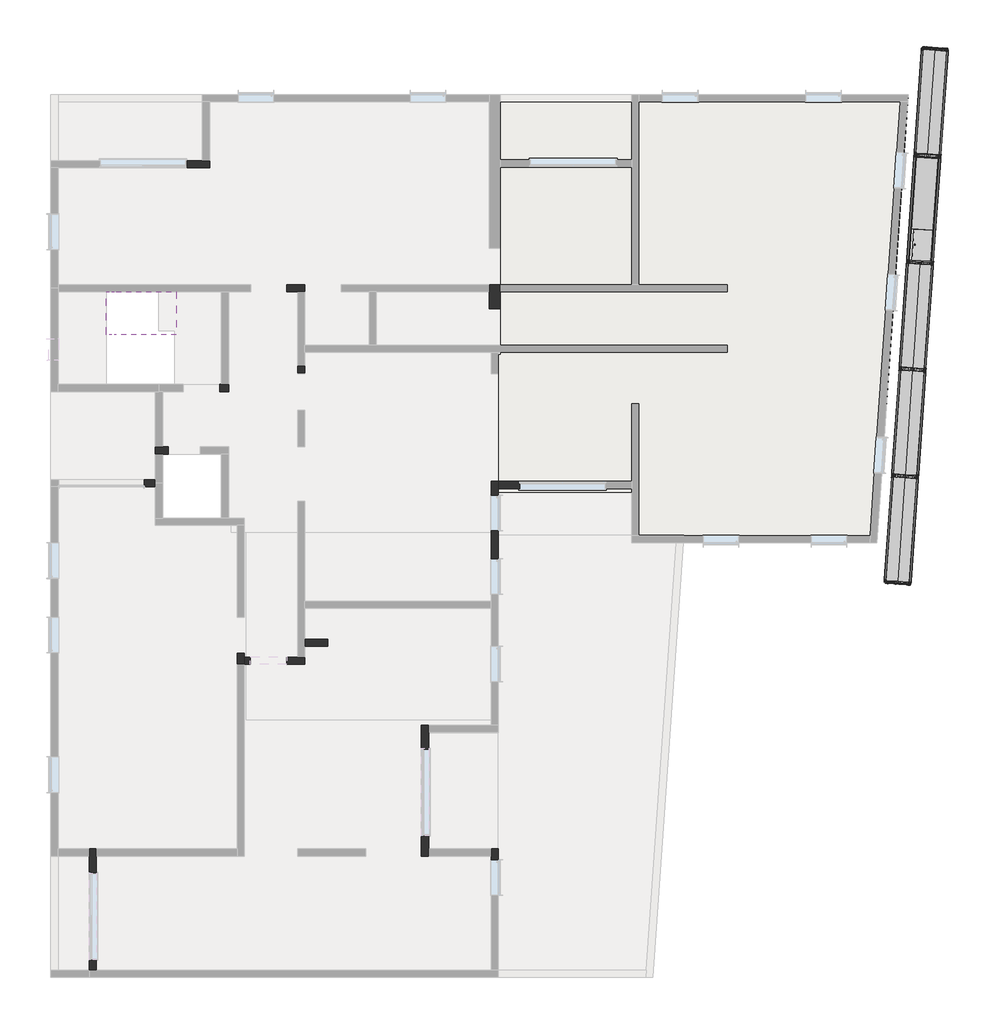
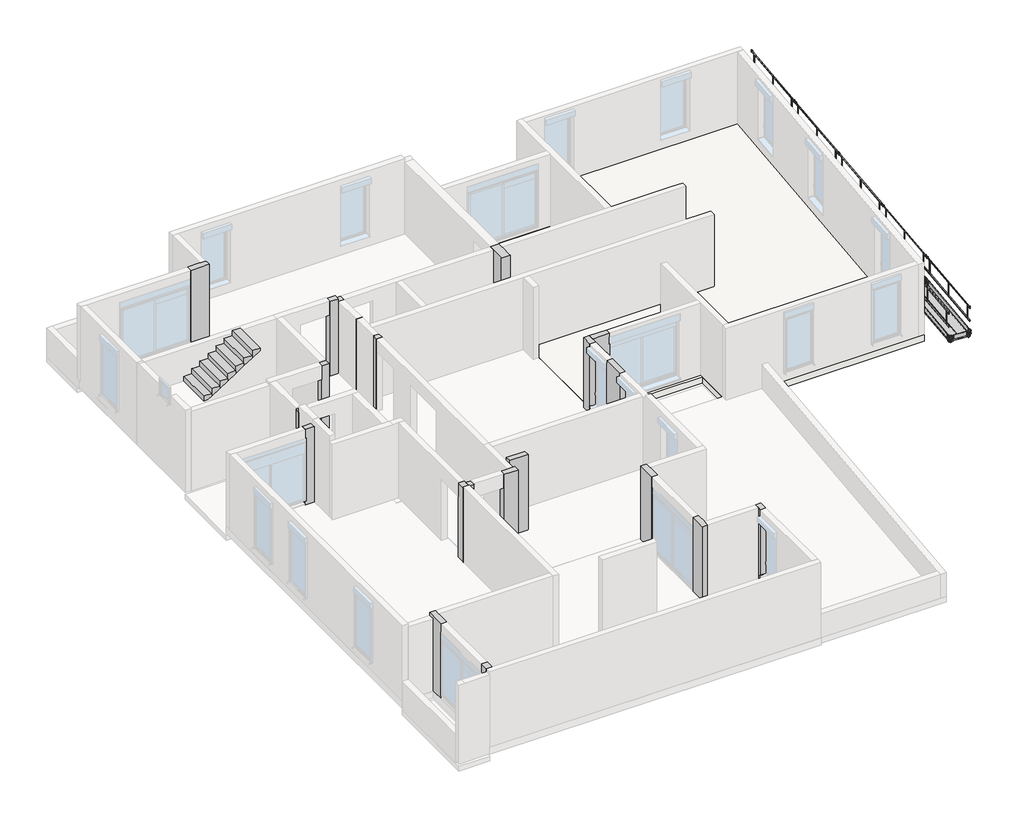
# One storey, part 3 of 3: 57 proxies, 20 columns, 2 slabs, 1 stair flight.
"""IFC4 building model written with IfcOpenShell, lengths in millimetres."""

from ifc_helpers import new_model, si_unit, frame, origin, place, context, project, spatial, polyline, outline, extrude, faceted_brep, transform, mapped, element, save
from components import generic_models_b6224320, generic_models_870fb608, generic_models_6026e95e, generic_models_c9bf4d4e, generic_models_8fe25d63, proxy_03_lisse_70_0da8a22d, proxy_04_lisse_3_m_913477d2

model = new_model("IFC4")

# Units and contexts
model_context = context("Model", 3, world=origin())
ifc_project = project(units=[si_unit("LENGTHUNIT", "METRE", prefix="MILLI")], contexts=[model_context])

# Site, building, storey
site = spatial("IfcSite", under=ifc_project)
building = spatial("IfcBuilding", under=site)
storey = spatial("IfcBuildingStorey", under=building, Name="03-Plateau 3", Elevation=4400.0)

# Proxies
placement = place(None, origin())
generic_models_shape = generic_models_b6224320(model_context)
element("IfcBuildingElementProxy", 1, Name="05-Plateau 3.00 m : JPA Plateau Galva", ObjectType="05-Plateau 3.00 m : JPA Plateau Galva", at=placement, inside=storey, context=model_context, shape_type="MappedRepresentation", body=[
    mapped(generic_models_shape, transform((17696.6144519, 11330.0091436, 4400.0), x_axis=(0.06975647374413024, 0.997564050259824, 0.0), y_axis=(-0.997564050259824, 0.06975647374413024, 0.0), z_axis=(0.0, 0.0, 1.0))),
])
element("IfcBuildingElementProxy", 2, Name="05-Plateau 3.00 m : JPA Plateau Galva", ObjectType="05-Plateau 3.00 m : JPA Plateau Galva", at=placement, inside=storey, context=model_context, shape_type="MappedRepresentation", body=[
    mapped(generic_models_shape, transform((18015.8349479, 11307.687072, 4400.0), x_axis=(0.06975647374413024, 0.997564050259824, 0.0), y_axis=(-0.997564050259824, 0.06975647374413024, 0.0), z_axis=(0.0, 0.0, 1.0))),
])
element("IfcBuildingElementProxy", 3, Name="05-Plateau 3.00 m : JPA Plateau Galva", ObjectType="05-Plateau 3.00 m : JPA Plateau Galva", at=placement, inside=storey, context=model_context, shape_type="MappedRepresentation", body=[
    mapped(generic_models_shape, transform((18115.6220564, 17322.0970558, 4400.0), x_axis=(0.06975647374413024, 0.997564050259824, 0.0), y_axis=(-0.997564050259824, 0.06975647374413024, 0.0), z_axis=(0.0, 0.0, 1.0))),
])
element("IfcBuildingElementProxy", 4, Name="05-Plateau 3.00 m : JPA Plateau Galva", ObjectType="05-Plateau 3.00 m : JPA Plateau Galva", at=placement, inside=storey, context=model_context, shape_type="MappedRepresentation", body=[
    mapped(generic_models_shape, transform((18434.8425525, 17299.7749842, 4400.0), x_axis=(0.06975647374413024, 0.997564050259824, 0.0), y_axis=(-0.997564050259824, 0.06975647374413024, 0.0), z_axis=(0.0, 0.0, 1.0))),
])
element("IfcBuildingElementProxy", 5, Name="05-Plateau 3.00 m : JPA Plateau Galva", ObjectType="05-Plateau 3.00 m : JPA Plateau Galva", at=placement, inside=storey, context=model_context, shape_type="MappedRepresentation", body=[
    mapped(generic_models_shape, transform((17487.1106496, 8333.9651875, 4400.0), x_axis=(0.06975647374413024, 0.997564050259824, 0.0), y_axis=(-0.997564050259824, 0.06975647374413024, 0.0), z_axis=(0.0, 0.0, 1.0))),
])
element("IfcBuildingElementProxy", 6, Name="05-Plateau 3.00 m : JPA Plateau Galva", ObjectType="05-Plateau 3.00 m : JPA Plateau Galva", at=placement, inside=storey, context=model_context, shape_type="MappedRepresentation", body=[
    mapped(generic_models_shape, transform((17806.3311456, 8311.6431159, 4400.0), x_axis=(0.06975647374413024, 0.997564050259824, 0.0), y_axis=(-0.997564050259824, 0.06975647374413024, 0.0), z_axis=(0.0, 0.0, 1.0))),
])
element("IfcBuildingElementProxy", 7, Name="05-Plateau 3.00 m : JPA Plateau Galva", ObjectType="05-Plateau 3.00 m : JPA Plateau Galva", at=placement, inside=storey, context=model_context, shape_type="MappedRepresentation", body=[
    mapped(generic_models_shape, transform((17277.6068473, 5337.9212313, 4400.0), x_axis=(0.06975647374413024, 0.997564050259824, 0.0), y_axis=(-0.997564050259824, 0.06975647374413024, 0.0), z_axis=(0.0, 0.0, 1.0))),
])
element("IfcBuildingElementProxy", 8, Name="05-Plateau 3.00 m : JPA Plateau Galva", ObjectType="05-Plateau 3.00 m : JPA Plateau Galva", at=placement, inside=storey, context=model_context, shape_type="MappedRepresentation", body=[
    mapped(generic_models_shape, transform((17596.8273433, 5315.5991597, 4400.0), x_axis=(0.06975647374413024, 0.997564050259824, 0.0), y_axis=(-0.997564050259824, 0.06975647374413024, 0.0), z_axis=(0.0, 0.0, 1.0))),
])
generic_models_2_shape = generic_models_870fb608(model_context)
element("IfcBuildingElementProxy", 9, Name="07-Plancher trappe : JPA Plancher trappe", ObjectType="07-Plancher trappe : JPA Plancher trappe", at=placement, inside=storey, context=model_context, shape_type="MappedRepresentation", body=[
    mapped(generic_models_2_shape, transform((18603.7155246, 14267.2479276, 4400.0), x_axis=(0.06975647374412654, 0.9975640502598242, 0.0), y_axis=(-0.9975640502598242, 0.06975647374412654, 0.0), z_axis=(0.0, 0.0, 1.0))),
])
generic_models_3_shape = generic_models_6026e95e(model_context)
element("IfcBuildingElementProxy", 10, Name="11-Plinthe 0.70 : JPA Plinthe 0.70", ObjectType="11-Plinthe 0.70 : JPA Plinthe 0.70", at=placement, inside=storey, context=model_context, shape_type="MappedRepresentation", body=[
    mapped(generic_models_3_shape, transform((17293.9283677, 5332.6495195, 4400.0), x_axis=(0.9970739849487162, -0.07644258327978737, 0.0), y_axis=(0.07644258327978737, 0.9970739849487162, 0.0), z_axis=(0.0, 0.0, 1.0))),
])
element("IfcBuildingElementProxy", 11, Name="11-Plinthe 0.70 : JPA Plinthe 0.70", ObjectType="11-Plinthe 0.70 : JPA Plinthe 0.70", at=placement, inside=storey, context=model_context, shape_type="MappedRepresentation", body=[
    mapped(generic_models_3_shape, transform((18342.1895888, 20323.4833915, 4400.0), x_axis=(0.9970739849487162, -0.07644258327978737, 0.0), y_axis=(0.07644258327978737, 0.9970739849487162, 0.0), z_axis=(0.0, 0.0, 1.0))),
])
generic_models_4_shape = generic_models_c9bf4d4e(model_context)
element("IfcBuildingElementProxy", 12, Name="12-Plinthe 3 m : JPA Plinthe 3 m", ObjectType="12-Plinthe 3 m : JPA Plinthe 3 m", at=placement, inside=storey, context=model_context, shape_type="MappedRepresentation", body=[
    mapped(generic_models_4_shape, transform((17696.788843, 11332.5030537, 4400.0), x_axis=(0.06975647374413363, 0.9975640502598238, 0.0), y_axis=(-0.9975640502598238, 0.06975647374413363, 0.0), z_axis=(0.0, 0.0, 1.0))),
])
element("IfcBuildingElementProxy", 13, Name="12-Plinthe 3 m : JPA Plinthe 3 m", ObjectType="12-Plinthe 3 m : JPA Plinthe 3 m", at=placement, inside=storey, context=model_context, shape_type="MappedRepresentation", body=[
    mapped(generic_models_4_shape, transform((18395.0836782, 11283.6735221, 4400.0), x_axis=(0.06975647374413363, 0.9975640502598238, 0.0), y_axis=(-0.9975640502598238, 0.06975647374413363, 0.0), z_axis=(0.0, 0.0, 1.0))),
])
element("IfcBuildingElementProxy", 14, Name="12-Plinthe 3 m : JPA Plinthe 3 m", ObjectType="12-Plinthe 3 m : JPA Plinthe 3 m", at=placement, inside=storey, context=model_context, shape_type="MappedRepresentation", body=[
    mapped(generic_models_4_shape, transform((17906.2926453, 14328.5470098, 4400.0), x_axis=(0.06975647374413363, 0.9975640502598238, 0.0), y_axis=(-0.9975640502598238, 0.06975647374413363, 0.0), z_axis=(0.0, 0.0, 1.0))),
])
element("IfcBuildingElementProxy", 15, Name="12-Plinthe 3 m : JPA Plinthe 3 m", ObjectType="12-Plinthe 3 m : JPA Plinthe 3 m", at=placement, inside=storey, context=model_context, shape_type="MappedRepresentation", body=[
    mapped(generic_models_4_shape, transform((18604.5874805, 14279.7174782, 4400.0), x_axis=(0.06975647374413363, 0.9975640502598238, 0.0), y_axis=(-0.9975640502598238, 0.06975647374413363, 0.0), z_axis=(0.0, 0.0, 1.0))),
])
element("IfcBuildingElementProxy", 16, Name="12-Plinthe 3 m : JPA Plinthe 3 m", ObjectType="12-Plinthe 3 m : JPA Plinthe 3 m", at=placement, inside=storey, context=model_context, shape_type="MappedRepresentation", body=[
    mapped(generic_models_4_shape, transform((18115.7964476, 17324.590966, 4400.0), x_axis=(0.06975647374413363, 0.9975640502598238, 0.0), y_axis=(-0.9975640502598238, 0.06975647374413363, 0.0), z_axis=(0.0, 0.0, 1.0))),
])
element("IfcBuildingElementProxy", 17, Name="12-Plinthe 3 m : JPA Plinthe 3 m", ObjectType="12-Plinthe 3 m : JPA Plinthe 3 m", at=placement, inside=storey, context=model_context, shape_type="MappedRepresentation", body=[
    mapped(generic_models_4_shape, transform((18814.0912828, 17275.7614343, 4400.0), x_axis=(0.06975647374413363, 0.9975640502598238, 0.0), y_axis=(-0.9975640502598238, 0.06975647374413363, 0.0), z_axis=(0.0, 0.0, 1.0))),
])
element("IfcBuildingElementProxy", 18, Name="12-Plinthe 3 m : JPA Plinthe 3 m", ObjectType="12-Plinthe 3 m : JPA Plinthe 3 m", at=placement, inside=storey, context=model_context, shape_type="MappedRepresentation", body=[
    mapped(generic_models_4_shape, transform((17487.2850407, 8336.4590976, 4400.0), x_axis=(0.06975647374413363, 0.9975640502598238, 0.0), y_axis=(-0.9975640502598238, 0.06975647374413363, 0.0), z_axis=(0.0, 0.0, 1.0))),
])
element("IfcBuildingElementProxy", 19, Name="12-Plinthe 3 m : JPA Plinthe 3 m", ObjectType="12-Plinthe 3 m : JPA Plinthe 3 m", at=placement, inside=storey, context=model_context, shape_type="MappedRepresentation", body=[
    mapped(generic_models_4_shape, transform((18185.5798759, 8287.629566, 4400.0), x_axis=(0.06975647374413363, 0.9975640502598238, 0.0), y_axis=(-0.9975640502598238, 0.06975647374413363, 0.0), z_axis=(0.0, 0.0, 1.0))),
])
element("IfcBuildingElementProxy", 20, Name="12-Plinthe 3 m : JPA Plinthe 3 m", ObjectType="12-Plinthe 3 m : JPA Plinthe 3 m", at=placement, inside=storey, context=model_context, shape_type="MappedRepresentation", body=[
    mapped(generic_models_4_shape, transform((17277.7812384, 5340.4151415, 4400.0), x_axis=(0.06975647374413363, 0.9975640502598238, 0.0), y_axis=(-0.9975640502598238, 0.06975647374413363, 0.0), z_axis=(0.0, 0.0, 1.0))),
])
element("IfcBuildingElementProxy", 21, Name="12-Plinthe 3 m : JPA Plinthe 3 m", ObjectType="12-Plinthe 3 m : JPA Plinthe 3 m", at=placement, inside=storey, context=model_context, shape_type="MappedRepresentation", body=[
    mapped(generic_models_4_shape, transform((17976.0760736, 5291.5856098, 4400.0), x_axis=(0.06975647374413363, 0.9975640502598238, 0.0), y_axis=(-0.9975640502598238, 0.06975647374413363, 0.0), z_axis=(0.0, 0.0, 1.0))),
])
generic_models_5_shape = generic_models_8fe25d63(model_context)
element("IfcBuildingElementProxy", 22, Name="14-Garde corps 300 : JPA Garde corps 300", ObjectType="14-Garde corps 300 : JPA Garde corps 300", at=placement, inside=storey, context=model_context, shape_type="MappedRepresentation", body=[
    mapped(generic_models_5_shape, transform((17696.7673576, 11331.7493383, 4400.0), x_axis=(0.06975647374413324, 0.9975640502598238, 0.0), y_axis=(-0.9975640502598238, 0.06975647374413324, 0.0), z_axis=(0.0, 0.0, 1.0))),
])
element("IfcBuildingElementProxy", 23, Name="14-Garde corps 300 : JPA Garde corps 300", ObjectType="14-Garde corps 300 : JPA Garde corps 300", at=placement, inside=storey, context=model_context, shape_type="MappedRepresentation", body=[
    mapped(generic_models_5_shape, transform((17906.2711598, 14327.7932944, 4400.0), x_axis=(0.06975647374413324, 0.9975640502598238, 0.0), y_axis=(-0.9975640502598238, 0.06975647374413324, 0.0), z_axis=(0.0, 0.0, 1.0))),
])
element("IfcBuildingElementProxy", 24, Name="14-Garde corps 300 : JPA Garde corps 300", ObjectType="14-Garde corps 300 : JPA Garde corps 300", at=placement, inside=storey, context=model_context, shape_type="MappedRepresentation", body=[
    mapped(generic_models_5_shape, transform((18115.7749621, 17323.8372506, 4400.0), x_axis=(0.06975647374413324, 0.9975640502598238, 0.0), y_axis=(-0.9975640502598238, 0.06975647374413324, 0.0), z_axis=(0.0, 0.0, 1.0))),
])
element("IfcBuildingElementProxy", 25, Name="14-Garde corps 300 : JPA Garde corps 300", ObjectType="14-Garde corps 300 : JPA Garde corps 300", at=placement, inside=storey, context=model_context, shape_type="MappedRepresentation", body=[
    mapped(generic_models_5_shape, transform((17487.2635553, 8335.7053822, 4400.0), x_axis=(0.06975647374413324, 0.9975640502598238, 0.0), y_axis=(-0.9975640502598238, 0.06975647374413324, 0.0), z_axis=(0.0, 0.0, 1.0))),
])
element("IfcBuildingElementProxy", 26, Name="14-Garde corps 300 : JPA Garde corps 300", ObjectType="14-Garde corps 300 : JPA Garde corps 300", at=placement, inside=storey, context=model_context, shape_type="MappedRepresentation", body=[
    mapped(generic_models_5_shape, transform((18814.2002275, 17273.8372506, 4400.0), x_axis=(0.06975647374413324, 0.9975640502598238, 0.0), y_axis=(-0.9975640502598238, 0.06975647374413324, 0.0), z_axis=(0.0, 0.0, 1.0))),
])
element("IfcBuildingElementProxy", 27, Name="14-Garde corps 300 : JPA Garde corps 300", ObjectType="14-Garde corps 300 : JPA Garde corps 300", at=placement, inside=storey, context=model_context, shape_type="MappedRepresentation", body=[
    mapped(generic_models_5_shape, transform((18604.2002275, 14273.8372506, 4400.0), x_axis=(0.06975647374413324, 0.9975640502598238, 0.0), y_axis=(-0.9975640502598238, 0.06975647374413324, 0.0), z_axis=(0.0, 0.0, 1.0))),
])
element("IfcBuildingElementProxy", 28, Name="14-Garde corps 300 : JPA Garde corps 300", ObjectType="14-Garde corps 300 : JPA Garde corps 300", at=placement, inside=storey, context=model_context, shape_type="MappedRepresentation", body=[
    mapped(generic_models_5_shape, transform((18394.9308063, 11281.1450998, 4400.0), x_axis=(0.06975647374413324, 0.9975640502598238, 0.0), y_axis=(-0.9975640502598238, 0.06975647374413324, 0.0), z_axis=(0.0, 0.0, 1.0))),
])
element("IfcBuildingElementProxy", 29, Name="14-Garde corps 300 : JPA Garde corps 300", ObjectType="14-Garde corps 300 : JPA Garde corps 300", at=placement, inside=storey, context=model_context, shape_type="MappedRepresentation", body=[
    mapped(generic_models_5_shape, transform((18185.427004, 8285.1011437, 4400.0), x_axis=(0.06975647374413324, 0.9975640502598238, 0.0), y_axis=(-0.9975640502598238, 0.06975647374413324, 0.0), z_axis=(0.0, 0.0, 1.0))),
])
element("IfcBuildingElementProxy", 30, Name="14-Garde corps 300 : JPA Garde corps 300", ObjectType="14-Garde corps 300 : JPA Garde corps 300", at=placement, inside=storey, context=model_context, shape_type="MappedRepresentation", body=[
    mapped(generic_models_5_shape, transform((18185.427004, 8285.1011437, 4400.0), x_axis=(0.06975647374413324, 0.9975640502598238, 0.0), y_axis=(-0.9975640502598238, 0.06975647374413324, 0.0), z_axis=(0.0, 0.0, 1.0))),
])
element("IfcBuildingElementProxy", 31, Name="14-Garde corps 300 : JPA Garde corps 300", ObjectType="14-Garde corps 300 : JPA Garde corps 300", at=placement, inside=storey, context=model_context, shape_type="MappedRepresentation", body=[
    mapped(generic_models_5_shape, transform((17277.759753, 5339.6614261, 4400.0), x_axis=(0.06975647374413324, 0.9975640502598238, 0.0), y_axis=(-0.9975640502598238, 0.06975647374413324, 0.0), z_axis=(0.0, 0.0, 1.0))),
])
element("IfcBuildingElementProxy", 32, Name="14-Garde corps 300 : JPA Garde corps 300", ObjectType="14-Garde corps 300 : JPA Garde corps 300", at=placement, inside=storey, context=model_context, shape_type="MappedRepresentation", body=[
    mapped(generic_models_5_shape, transform((17975.9232017, 5289.0571875, 4400.0), x_axis=(0.06975647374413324, 0.9975640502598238, 0.0), y_axis=(-0.9975640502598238, 0.06975647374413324, 0.0), z_axis=(0.0, 0.0, 1.0))),
])
element("IfcBuildingElementProxy", 33, Name="14-Garde corps 300 : JPA Garde corps 300", ObjectType="14-Garde corps 300 : JPA Garde corps 300", at=placement, inside=storey, context=model_context, shape_type="MappedRepresentation", body=[
    mapped(generic_models_5_shape, transform((17975.9232017, 5289.0571875, 4400.0), x_axis=(0.06975647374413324, 0.9975640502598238, 0.0), y_axis=(-0.9975640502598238, 0.06975647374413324, 0.0), z_axis=(0.0, 0.0, 1.0))),
])
proxy_03_lisse_70_shape = proxy_03_lisse_70_0da8a22d(model_context)
element("IfcBuildingElementProxy", 34, Name="03-Lisse 70 : JPA Lisse Galva", ObjectType="03-Lisse 70 : JPA Lisse Galva", at=placement, inside=storey, context=model_context, shape_type="MappedRepresentation", body=[
    mapped(proxy_03_lisse_70_shape, transform((17687.6637048, 11325.7592688, 4400.0), x_axis=(0.9975640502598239, -0.06975647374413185, 0.0), y_axis=(0.06975647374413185, 0.9975640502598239, 0.0), z_axis=(0.0, 0.0, 1.0))),
])
element("IfcBuildingElementProxy", 35, Name="03-Lisse 70 : JPA Lisse Galva", ObjectType="03-Lisse 70 : JPA Lisse Galva", at=placement, inside=storey, context=model_context, shape_type="MappedRepresentation", body=[
    mapped(proxy_03_lisse_70_shape, transform((17897.1675071, 14321.8032249, 4400.0), x_axis=(0.9975640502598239, -0.06975647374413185, 0.0), y_axis=(0.06975647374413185, 0.9975640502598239, 0.0), z_axis=(0.0, 0.0, 1.0))),
])
element("IfcBuildingElementProxy", 36, Name="03-Lisse 70 : JPA Lisse Galva", ObjectType="03-Lisse 70 : JPA Lisse Galva", at=placement, inside=storey, context=model_context, shape_type="MappedRepresentation", body=[
    mapped(proxy_03_lisse_70_shape, transform((18106.6713094, 17317.847181, 4400.0), x_axis=(0.9975640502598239, -0.06975647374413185, 0.0), y_axis=(0.06975647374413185, 0.9975640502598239, 0.0), z_axis=(0.0, 0.0, 1.0))),
])
element("IfcBuildingElementProxy", 37, Name="03-Lisse 70 : JPA Lisse Galva", ObjectType="03-Lisse 70 : JPA Lisse Galva", at=placement, inside=storey, context=model_context, shape_type="MappedRepresentation", body=[
    mapped(proxy_03_lisse_70_shape, transform((18311.1751117, 20323.8911372, 4400.0), x_axis=(0.9975640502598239, -0.06975647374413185, 0.0), y_axis=(0.06975647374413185, 0.9975640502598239, 0.0), z_axis=(0.0, 0.0, 1.0))),
])
element("IfcBuildingElementProxy", 38, Name="03-Lisse 70 : JPA Lisse Galva", ObjectType="03-Lisse 70 : JPA Lisse Galva", at=placement, inside=storey, context=model_context, shape_type="MappedRepresentation", body=[
    mapped(proxy_03_lisse_70_shape, transform((17478.1599025, 8329.7153127, 4400.0), x_axis=(0.9975640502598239, -0.06975647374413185, 0.0), y_axis=(0.06975647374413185, 0.9975640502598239, 0.0), z_axis=(0.0, 0.0, 1.0))),
])
element("IfcBuildingElementProxy", 39, Name="03-Lisse 70 : JPA Lisse Galva", ObjectType="03-Lisse 70 : JPA Lisse Galva", at=placement, inside=storey, context=model_context, shape_type="MappedRepresentation", body=[
    mapped(proxy_03_lisse_70_shape, transform((17478.1599025, 8329.7153127, 4400.0), x_axis=(0.9975640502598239, -0.06975647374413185, 0.0), y_axis=(0.06975647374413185, 0.9975640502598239, 0.0), z_axis=(0.0, 0.0, 1.0))),
])
element("IfcBuildingElementProxy", 40, Name="03-Lisse 70 : JPA Lisse Galva", ObjectType="03-Lisse 70 : JPA Lisse Galva", at=placement, inside=storey, context=model_context, shape_type="MappedRepresentation", body=[
    mapped(proxy_03_lisse_70_shape, transform((17268.6561002, 5333.6713565, 4400.0), x_axis=(0.9975640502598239, -0.06975647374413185, 0.0), y_axis=(0.06975647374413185, 0.9975640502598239, 0.0), z_axis=(0.0, 0.0, 1.0))),
])
proxy_04_lisse_3_m_shape = proxy_04_lisse_3_m_913477d2(model_context)
element("IfcBuildingElementProxy", 41, Name="04-Lisse 3 m : JPA Lisse Galva", ObjectType="04-Lisse 3 m : JPA Lisse Galva", at=placement, inside=storey, context=model_context, shape_type="MappedRepresentation", body=[
    mapped(proxy_04_lisse_3_m_shape, transform((18185.5798759, 8287.629566, 4400.0), x_axis=(0.06975647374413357, 0.9975640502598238, 0.0), y_axis=(-0.9975640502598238, 0.06975647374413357, 0.0), z_axis=(0.0, 0.0, 1.0))),
])
element("IfcBuildingElementProxy", 42, Name="04-Lisse 3 m : JPA Lisse Galva", ObjectType="04-Lisse 3 m : JPA Lisse Galva", at=placement, inside=storey, context=model_context, shape_type="MappedRepresentation", body=[
    mapped(proxy_04_lisse_3_m_shape, transform((18394.2117223, 11271.2039715, 4400.0), x_axis=(0.06975647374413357, 0.9975640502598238, 0.0), y_axis=(-0.9975640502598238, 0.06975647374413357, 0.0), z_axis=(0.0, 0.0, 1.0))),
])
element("IfcBuildingElementProxy", 43, Name="04-Lisse 3 m : JPA Lisse Galva", ObjectType="04-Lisse 3 m : JPA Lisse Galva", at=placement, inside=storey, context=model_context, shape_type="MappedRepresentation", body=[
    mapped(proxy_04_lisse_3_m_shape, transform((18604.1764114, 14273.838916, 4400.0), x_axis=(0.06975647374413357, 0.9975640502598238, 0.0), y_axis=(-0.9975640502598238, 0.06975647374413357, 0.0), z_axis=(0.0, 0.0, 1.0))),
])
element("IfcBuildingElementProxy", 44, Name="04-Lisse 3 m : JPA Lisse Galva", ObjectType="04-Lisse 3 m : JPA Lisse Galva", at=placement, inside=storey, context=model_context, shape_type="MappedRepresentation", body=[
    mapped(proxy_04_lisse_3_m_shape, transform((18813.5502996, 17268.0250134, 4400.0), x_axis=(0.06975647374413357, 0.9975640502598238, 0.0), y_axis=(-0.9975640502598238, 0.06975647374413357, 0.0), z_axis=(0.0, 0.0, 1.0))),
])
element("IfcBuildingElementProxy", 45, Name="04-Lisse 3 m : JPA Lisse Galva", ObjectType="04-Lisse 3 m : JPA Lisse Galva", at=placement, inside=storey, context=model_context, shape_type="MappedRepresentation", body=[
    mapped(proxy_04_lisse_3_m_shape, transform((17976.0760736, 5291.5856098, 4400.0), x_axis=(0.06975647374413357, 0.9975640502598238, 0.0), y_axis=(-0.9975640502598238, 0.06975647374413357, 0.0), z_axis=(0.0, 0.0, 1.0))),
])
element("IfcBuildingElementProxy", 46, Name="04-Lisse 3 m : JPA Lisse Galva", ObjectType="04-Lisse 3 m : JPA Lisse Galva", at=placement, inside=storey, context=model_context, shape_type="MappedRepresentation", body=[
    mapped(proxy_04_lisse_3_m_shape, transform((17487.2850407, 8336.4590976, 4400.0), x_axis=(0.06975647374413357, 0.9975640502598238, 0.0), y_axis=(-0.9975640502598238, 0.06975647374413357, 0.0), z_axis=(0.0, 0.0, 1.0))),
])
element("IfcBuildingElementProxy", 47, Name="04-Lisse 3 m : JPA Lisse Galva", ObjectType="04-Lisse 3 m : JPA Lisse Galva", at=placement, inside=storey, context=model_context, shape_type="MappedRepresentation", body=[
    mapped(proxy_04_lisse_3_m_shape, transform((17695.9168871, 11320.0335031, 4400.0), x_axis=(0.06975647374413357, 0.9975640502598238, 0.0), y_axis=(-0.9975640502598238, 0.06975647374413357, 0.0), z_axis=(0.0, 0.0, 1.0))),
])
element("IfcBuildingElementProxy", 48, Name="04-Lisse 3 m : JPA Lisse Galva", ObjectType="04-Lisse 3 m : JPA Lisse Galva", at=placement, inside=storey, context=model_context, shape_type="MappedRepresentation", body=[
    mapped(proxy_04_lisse_3_m_shape, transform((17905.8815762, 14322.6684476, 4400.0), x_axis=(0.06975647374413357, 0.9975640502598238, 0.0), y_axis=(-0.9975640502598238, 0.06975647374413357, 0.0), z_axis=(0.0, 0.0, 1.0))),
])
element("IfcBuildingElementProxy", 49, Name="04-Lisse 3 m : JPA Lisse Galva", ObjectType="04-Lisse 3 m : JPA Lisse Galva", at=placement, inside=storey, context=model_context, shape_type="MappedRepresentation", body=[
    mapped(proxy_04_lisse_3_m_shape, transform((18115.2554644, 17316.8545451, 4400.0), x_axis=(0.06975647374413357, 0.9975640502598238, 0.0), y_axis=(-0.9975640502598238, 0.06975647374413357, 0.0), z_axis=(0.0, 0.0, 1.0))),
])
element("IfcBuildingElementProxy", 50, Name="04-Lisse 3 m : JPA Lisse Galva", ObjectType="04-Lisse 3 m : JPA Lisse Galva", at=placement, inside=storey, context=model_context, shape_type="MappedRepresentation", body=[
    mapped(proxy_04_lisse_3_m_shape, transform((17277.7812384, 5340.4151415, 4400.0), x_axis=(0.06975647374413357, 0.9975640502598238, 0.0), y_axis=(-0.9975640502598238, 0.06975647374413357, 0.0), z_axis=(0.0, 0.0, 1.0))),
])
element("IfcBuildingElementProxy", 51, Name="04-Lisse 3 m : JPA Lisse Galva", ObjectType="04-Lisse 3 m : JPA Lisse Galva", at=placement, inside=storey, context=model_context, shape_type="MappedRepresentation", body=[
    mapped(proxy_04_lisse_3_m_shape, transform((17500.8765554, 8353.1677495, 4400.0), x_axis=(0.06975647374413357, 0.9975640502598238, 0.0), y_axis=(-0.9975640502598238, 0.06975647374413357, 0.0), z_axis=(0.0, 0.0, 1.0))),
])
element("IfcBuildingElementProxy", 52, Name="04-Lisse 3 m : JPA Lisse Galva", ObjectType="04-Lisse 3 m : JPA Lisse Galva", at=placement, inside=storey, context=model_context, shape_type="MappedRepresentation", body=[
    mapped(proxy_04_lisse_3_m_shape, transform((17709.5084018, 11336.742155, 4400.0), x_axis=(0.06975647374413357, 0.9975640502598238, 0.0), y_axis=(-0.9975640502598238, 0.06975647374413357, 0.0), z_axis=(0.0, 0.0, 1.0))),
])
element("IfcBuildingElementProxy", 53, Name="04-Lisse 3 m : JPA Lisse Galva", ObjectType="04-Lisse 3 m : JPA Lisse Galva", at=placement, inside=storey, context=model_context, shape_type="MappedRepresentation", body=[
    mapped(proxy_04_lisse_3_m_shape, transform((17919.4730909, 14339.3770995, 4400.0), x_axis=(0.06975647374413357, 0.9975640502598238, 0.0), y_axis=(-0.9975640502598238, 0.06975647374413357, 0.0), z_axis=(0.0, 0.0, 1.0))),
])
element("IfcBuildingElementProxy", 54, Name="04-Lisse 3 m : JPA Lisse Galva", ObjectType="04-Lisse 3 m : JPA Lisse Galva", at=placement, inside=storey, context=model_context, shape_type="MappedRepresentation", body=[
    mapped(proxy_04_lisse_3_m_shape, transform((18128.846979, 17333.563197, 4400.0), x_axis=(0.06975647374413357, 0.9975640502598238, 0.0), y_axis=(-0.9975640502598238, 0.06975647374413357, 0.0), z_axis=(0.0, 0.0, 1.0))),
])
element("IfcBuildingElementProxy", 55, Name="04-Lisse 3 m : JPA Lisse Galva", ObjectType="04-Lisse 3 m : JPA Lisse Galva", at=placement, inside=storey, context=model_context, shape_type="MappedRepresentation", body=[
    mapped(proxy_04_lisse_3_m_shape, transform((17291.3727531, 5357.1237934, 4400.0), x_axis=(0.06975647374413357, 0.9975640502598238, 0.0), y_axis=(-0.9975640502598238, 0.06975647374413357, 0.0), z_axis=(0.0, 0.0, 1.0))),
])
element("IfcBuildingElementProxy", 56, Name="04-Lisse 3 m : JPA Lisse Galva", ObjectType="04-Lisse 3 m : JPA Lisse Galva", at=placement, inside=storey, context=model_context, shape_type="MappedRepresentation", body=[
    mapped(proxy_04_lisse_3_m_shape, transform((18604.1764114, 14271.2936372, 3904.432796), x_axis=(0.06975647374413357, 0.9975640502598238, 0.0), y_axis=(-0.9975640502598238, 0.06975647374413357, 0.0), z_axis=(0.0, 0.0, 1.0))),
])
element("IfcBuildingElementProxy", 57, Name="04-Lisse 3 m : JPA Lisse Galva", ObjectType="04-Lisse 3 m : JPA Lisse Galva", at=placement, inside=storey, context=model_context, shape_type="MappedRepresentation", body=[
    mapped(proxy_04_lisse_3_m_shape, transform((17919.4730909, 14336.8318207, 3904.432796), x_axis=(0.06975647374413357, 0.9975640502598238, 0.0), y_axis=(-0.9975640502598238, 0.06975647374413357, 0.0), z_axis=(0.0, 0.0, 1.0))),
])

# Columns
element("IfcColumn", 58, ObjectType="Poteau béton - Carré : 200 x 200 mm", at=placement, inside=storey, context=model_context, shape_type="SweptSolid", body=[
    extrude(outline(polyline([(1012.9552204, 11399.8622276), (1012.9552204, 11199.8622276), (812.9552204, 11199.8622276), (812.9552204, 11399.8622276), (1012.9552204, 11399.8622276)])), frame((0.0, 0.0, 4010.0), z_axis=(0.0, 0.0, 1.0), x_axis=(1.0, 0.0, 0.0)), (0.0, 0.0, 1.0), 2640.0),
])
element("IfcColumn", 59, ObjectType="Poteau béton - Carré : 200 x 200 mm", at=placement, inside=storey, context=model_context, shape_type="SweptSolid", body=[
    extrude(outline(polyline([(1012.9552204, 12599.8622276), (1012.9552204, 12399.8622276), (812.9552204, 12399.8622276), (812.9552204, 12599.8622276), (1012.9552204, 12599.8622276)])), frame((0.0, 0.0, 4010.0), z_axis=(0.0, 0.0, 1.0), x_axis=(1.0, 0.0, 0.0)), (0.0, 0.0, 1.0), 2640.0),
])
element("IfcColumn", 60, ObjectType="Poteau béton - Rectangulaire : 200x175", at=placement, inside=storey, context=model_context, shape_type="Brep", body=[
    faceted_brep([(-512.0447796, 3039.8622276, 4010.0), (-687.0447796, 3039.8622276, 4010.0), (-687.0447796, 3239.8622276, 4010.0), (-512.0447796, 3239.8622276, 4010.0), (-512.0447796, 3039.8622276, 6250.0), (-512.0447796, 3039.8622276, 6740.0), (-687.0447796, 3039.8622276, 6740.0), (-687.0447796, 3239.8622276, 6740.0), (-512.0447796, 3239.8622276, 6740.0), (-512.0447796, 3239.8622276, 6250.0)], [[[0, 1, 2, 3]], [[1, 0, 4, 5, 6]], [[2, 1, 6, 7]], [[3, 2, 7, 8, 9]], [[0, 3, 9, 8, 5, 4]], [[6, 5, 8, 7]]]),
])
element("IfcColumn", 61, ObjectType="Poteau béton - Rectangulaire : 200x250 mm", at=placement, inside=storey, context=model_context, shape_type="Brep", body=[
    faceted_brep([(-1377.0447796, 10879.8622276, 4010.0), (-1327.0447796, 10879.8622276, 4010.0), (-1127.0447796, 10879.8622276, 4010.0), (-1127.0447796, 10679.8622276, 4010.0), (-1377.0447796, 10679.8622276, 4010.0), (-1377.0447796, 10879.8622276, 6250.0), (-1377.0447796, 10879.8622276, 6740.0), (-1327.0447796, 10879.8622276, 6740.0), (-1127.0447796, 10879.8622276, 6740.0), (-1127.0447796, 10679.8622276, 6740.0), (-1377.0447796, 10679.8622276, 6740.0), (-1377.0447796, 10679.8622276, 6250.0)], [[[0, 1, 2, 3, 4]], [[2, 1, 0, 5, 6, 7, 8]], [[3, 2, 8, 9]], [[4, 3, 9, 10, 11]], [[0, 4, 11, 10, 6, 5]], [[8, 7, 6, 10, 9]]]),
])
element("IfcColumn", 62, ObjectType="Poteau béton - Rectangulaire : 200x360 mm", at=placement, inside=storey, context=model_context, shape_type="Brep", body=[
    faceted_brep([(-3177.0447796, 9129.8622276, 4010.0), (-2977.0447796, 9129.8622276, 4010.0), (-2817.0447796, 9129.8622276, 4010.0), (-2817.0447796, 8929.8622276, 4010.0), (-2977.0447796, 8929.8622276, 4010.0), (-3177.0447796, 8929.8622276, 4010.0), (-3177.0447796, 9129.8622276, 6740.0), (-2817.0447796, 9129.8622276, 6740.0), (-2817.0447796, 9129.8622276, 6250.0), (-2817.0447796, 8929.8622276, 6740.0), (-2817.0447796, 8929.8622276, 6250.0), (-3177.0447796, 8929.8622276, 6740.0)], [[[0, 1, 2, 3, 4, 5]], [[2, 1, 0, 6, 7, 8]], [[3, 2, 8, 7, 9, 10]], [[5, 4, 3, 10, 9, 11]], [[0, 5, 11, 6]], [[7, 6, 11, 9]]]),
])
element("IfcColumn", 63, ObjectType="Poteau béton - Rectangulaire : 200x505", at=placement, inside=storey, context=model_context, shape_type="Brep", body=[
    faceted_brep([(1012.9552204, 3039.8622276, 4010.0), (507.9552204, 3039.8622276, 4010.0), (507.9552204, 3239.8622276, 4010.0), (812.9552204, 3239.8622276, 4010.0), (1012.9552204, 3239.8622276, 4010.0), (1012.9552204, 3039.8622276, 6740.0), (507.9552204, 3039.8622276, 6740.0), (507.9552204, 3039.8622276, 6250.0), (507.9552204, 3239.8622276, 6740.0), (507.9552204, 3239.8622276, 6250.0), (1012.9552204, 3239.8622276, 6740.0), (1012.9552204, 3239.8622276, 6650.0)], [[[0, 1, 2, 3, 4]], [[1, 0, 5, 6, 7]], [[2, 1, 7, 6, 8, 9]], [[4, 3, 2, 9, 8, 10, 11]], [[0, 4, 11, 10, 5]], [[6, 5, 10, 8]]]),
])
element("IfcColumn", 64, ObjectType="Poteau béton - Rectangulaire : 200x510 mm", at=placement, inside=storey, context=model_context, shape_type="Brep", body=[
    faceted_brep([(-3487.0447796, 8009.8622276, 4010.0), (-3487.0447796, 8209.8622276, 4010.0), (-3177.0447796, 8209.8622276, 4010.0), (-3177.0447796, 8109.8622276, 4010.0), (-3177.0447796, 8009.8622276, 4010.0), (-3487.0447796, 8209.8622276, 4022.7706813), (-3487.0447796, 8209.8622276, 4050.0), (-3487.0447796, 8209.8622276, 6450.0), (-3487.0447796, 8209.8622276, 6770.0), (-3177.0447796, 8209.8622276, 6770.0), (-3177.0447796, 8209.8622276, 6660.0), (-3177.0447796, 8009.8622276, 6770.0), (-3487.0447796, 8009.8622276, 6770.0), (-3487.0447796, 8009.8622276, 6450.0), (-3487.0447796, 8009.8622276, 4050.0), (-3487.0447796, 8009.8622276, 4022.7706813)], [[[0, 1, 2, 3, 4]], [[2, 1, 5, 6, 7, 8, 9, 10]], [[0, 4, 11, 12, 13, 14, 15]], [[1, 0, 15, 14, 13, 12, 8, 7, 6, 5]], [[4, 3, 2, 10, 9, 11]], [[9, 8, 12, 11]]]),
])
element("IfcColumn", 65, ObjectType="Poteau béton - Rectangulaire : 20x30", at=placement, inside=storey, context=model_context, shape_type="Brep", body=[
    faceted_brep([(-687.0447796, 3339.8622276, 4010.0), (-687.0447796, 3039.8622276, 4010.0), (-887.0447796, 3039.8622276, 4010.0), (-887.0447796, 3339.8622276, 4010.0), (-687.0447796, 3339.8622276, 6250.0), (-687.0447796, 3339.8622276, 6740.0), (-687.0447796, 3039.8622276, 6740.0), (-887.0447796, 3039.8622276, 6740.0), (-887.0447796, 3339.8622276, 6740.0), (-887.0447796, 3339.8622276, 6250.0)], [[[0, 1, 2, 3]], [[1, 0, 4, 5, 6]], [[2, 1, 6, 7]], [[3, 2, 7, 8, 9]], [[0, 3, 9, 8, 5, 4]], [[6, 5, 8, 7]]]),
])
element("IfcColumn", 66, ObjectType="Poteau béton - Rectangulaire : 20x30", at=placement, inside=storey, context=model_context, shape_type="Brep", body=[
    faceted_brep([(-4837.0447796, -5240.1377724, 4010.0), (-4837.0447796, -5540.1377724, 4010.0), (-5037.0447796, -5540.1377724, 4010.0), (-5037.0447796, -5240.1377724, 4010.0), (-4837.0447796, -5240.1377724, 6770.0), (-4837.0447796, -5540.1377724, 6770.0), (-4837.0447796, -5240.1377724, 6400.0), (-5037.0447796, -5540.1377724, 6770.0), (-5037.0447796, -5540.1377724, 6660.0), (-5037.0447796, -5240.1377724, 6770.0), (-5037.0447796, -5240.1377724, 6660.0), (-5037.0447796, -5240.1377724, 6400.0)], [[[0, 1, 2, 3]], [[4, 5, 1, 0, 6]], [[5, 7, 8, 2, 1]], [[7, 9, 10, 11, 3, 2, 8]], [[9, 4, 6, 0, 3, 11, 10]], [[4, 9, 7, 5]]]),
])
element("IfcColumn", 67, ObjectType="Poteau béton - Rectangulaire : 20x30", at=placement, inside=storey, context=model_context, shape_type="Brep", body=[
    faceted_brep([(6432.9552204, -2140.1377724, 4010.0), (6432.9552204, -2150.1377724, 4010.0), (6432.9552204, -2440.1377724, 4010.0), (6232.9552204, -2440.1377724, 4010.0), (6232.9552204, -2340.1377724, 4010.0), (6233.3552204, -2340.1377724, 4010.0), (6233.3552204, -2140.1377724, 4010.0), (6432.9552204, -2140.1377724, 6590.0), (6432.9552204, -2140.1377724, 6770.0), (6432.9552204, -2440.1377724, 6770.0), (6432.9552204, -2440.1377724, 6550.0), (6432.9552204, -2440.1377724, 4350.0), (6232.9552204, -2440.1377724, 6770.0), (6232.9552204, -2440.1377724, 6550.0), (6232.9552204, -2440.1377724, 4350.0), (6232.9552204, -2340.1377724, 6770.0), (6233.3552204, -2140.1377724, 6770.0), (6233.3552204, -2340.1377724, 6770.0)], [[[0, 1, 2, 3, 4, 5, 6]], [[2, 1, 0, 7, 8, 9, 10, 11]], [[3, 2, 11, 10, 9, 12, 13, 14]], [[3, 14, 13, 12, 15, 4]], [[8, 7, 0, 6, 16]], [[9, 8, 16, 17, 15, 12]], [[17, 5, 4, 15]], [[5, 17, 16, 6]]]),
])
element("IfcColumn", 68, ObjectType="Poteau béton - Rectangulaire : 20x38", at=placement, inside=storey, context=model_context, shape_type="Brep", body=[
    faceted_brep([(6432.9552204, 8159.8622276, 4080.0), (6432.9552204, 7779.8622276, 4080.0), (6232.9552204, 7779.8622276, 4080.0), (6232.9552204, 8159.8622276, 4080.0), (6432.9552204, 8159.8622276, 6650.0), (6432.9552204, 7959.8622276, 6650.0), (6432.9552204, 7779.8622276, 6650.0), (6432.9552204, 7779.8622276, 6550.0), (6432.9552204, 7779.8622276, 4350.0), (6432.9552204, 8159.8622276, 6550.0), (6232.9552204, 7779.8622276, 6650.0), (6232.9552204, 7779.8622276, 6550.0), (6232.9552204, 7779.8622276, 4350.0), (6232.9552204, 8159.8622276, 6650.0), (6232.9552204, 8159.8622276, 6550.0)], [[[0, 1, 2, 3]], [[4, 5, 6, 7, 8, 1, 0, 9]], [[6, 10, 11, 12, 2, 1, 8, 7]], [[10, 13, 14, 3, 2, 12, 11]], [[13, 4, 9, 0, 3, 14]], [[4, 13, 10, 6, 5]]]),
])
element("IfcColumn", 69, ObjectType="Poteau béton - Rectangulaire : 20x50 mm", at=placement, inside=storey, context=model_context, shape_type="SweptSolid", body=[
    extrude(outline(polyline([(4010.0, 508.9552204), (4010.0, 1008.9552204), (6650.0, 1008.9552204), (6650.0, 812.9552204), (6740.0, 812.9552204), (6740.0, 508.9552204), (4010.0, 508.9552204)])), frame((0.0, 13479.8622276, 0.0), z_axis=(0.0, 1.0, 0.0), x_axis=(0.0, 0.0, 1.0)), (0.0, 0.0, 1.0), 200.0),
])
element("IfcColumn", 70, ObjectType="Poteau béton - Rectangulaire : 20x57", at=placement, inside=storey, context=model_context, shape_type="Brep", body=[
    faceted_brep([(4478.3552204, -1770.1377724, 4080.0), (4478.3552204, -2340.1377724, 4080.0), (4278.3552204, -2340.1377724, 4080.0), (4278.3552204, -1770.1377724, 4080.0), (4478.3552204, -1770.1377724, 6770.0), (4478.3552204, -2140.1377724, 6770.0), (4478.3552204, -2340.1377724, 6770.0), (4478.3552204, -1770.1377724, 6400.0), (4278.3552204, -2340.1377724, 6770.0), (4278.3552204, -1770.1377724, 6770.0), (4278.3552204, -1770.1377724, 6400.0)], [[[0, 1, 2, 3]], [[4, 5, 6, 1, 0, 7]], [[6, 8, 2, 1]], [[8, 9, 10, 3, 2]], [[9, 4, 7, 0, 3, 10]], [[4, 9, 8, 6, 5]]]),
])
element("IfcColumn", 71, ObjectType="Poteau béton - Rectangulaire : 20x60", at=placement, inside=storey, context=model_context, shape_type="SweptSolid", body=[
    extrude(outline(polyline([(6432.9552204, 8159.8622276), (7032.9552204, 8159.8622276), (7032.9552204, 7959.8622276), (6432.9552204, 7959.8622276), (6432.9552204, 8159.8622276)])), frame((0.0, 0.0, 4080.0), z_axis=(0.0, 0.0, 1.0), x_axis=(1.0, 0.0, 0.0)), (0.0, 0.0, 1.0), 2570.0),
])
element("IfcColumn", 72, ObjectType="Poteau béton - Rectangulaire : 20x64", at=placement, inside=storey, context=model_context, shape_type="Brep", body=[
    faceted_brep([(-1657.0447796, 16949.8622276, 4010.0), (-2297.0447796, 16949.8622276, 4010.0), (-2297.0447796, 17149.8622276, 4010.0), (-1857.0447796, 17149.8622276, 4010.0), (-1657.0447796, 17149.8622276, 4010.0), (-1657.0447796, 16949.8622276, 6770.0), (-2297.0447796, 16949.8622276, 6770.0), (-2297.0447796, 16949.8622276, 6450.0), (-2297.0447796, 16949.8622276, 4120.0), (-2297.0447796, 17149.8622276, 6770.0), (-2297.0447796, 17149.8622276, 6660.0), (-2297.0447796, 17149.8622276, 6450.0), (-2297.0447796, 17149.8622276, 6200.0), (-2297.0447796, 17149.8622276, 4105.0695702), (-2297.0447796, 17149.8622276, 4050.0), (-1857.0447796, 17149.8622276, 6770.0), (-1657.0447796, 17149.8622276, 6770.0), (-1657.0447796, 17049.8622276, 6770.0)], [[[0, 1, 2, 3, 4]], [[5, 6, 7, 8, 1, 0]], [[6, 9, 10, 11, 12, 13, 14, 2, 1, 8, 7]], [[9, 15, 16, 4, 3, 2, 14, 13, 12, 11, 10]], [[16, 17, 5, 0, 4]], [[5, 17, 16, 15, 9, 6]]]),
])
element("IfcColumn", 73, ObjectType="Poteau béton - Rectangulaire : 20x64", at=placement, inside=storey, context=model_context, shape_type="SweptSolid", body=[
    extrude(outline(polyline([(1652.9552204, 3539.8622276), (1012.9552204, 3539.8622276), (1012.9552204, 3739.8622276), (1652.9552204, 3739.8622276), (1652.9552204, 3539.8622276)])), frame((0.0, 0.0, 4010.0), z_axis=(0.0, 0.0, 1.0), x_axis=(1.0, 0.0, 0.0)), (0.0, 0.0, 1.0), 2760.0),
])
element("IfcColumn", 74, ObjectType="Poteau béton - Rectangulaire : 20x68", at=placement, inside=storey, context=model_context, shape_type="Brep", body=[
    faceted_brep([(-4837.0447796, -2140.1377724, 4010.0), (-4837.0447796, -2340.1377724, 4010.0), (-4837.0447796, -2820.1377724, 4010.0), (-5037.0447796, -2820.1377724, 4010.0), (-5037.0447796, -2340.1377724, 4010.0), (-5037.0447796, -2140.1377724, 4010.0), (-4837.0447796, -2140.1377724, 6770.0), (-4837.0447796, -2340.1377724, 6770.0), (-4837.0447796, -2820.1377724, 6770.0), (-5037.0447796, -2820.1377724, 6770.0), (-5037.0447796, -2340.1377724, 6770.0), (-5037.0447796, -2140.1377724, 6770.0), (-5037.0447796, -2140.1377724, 6660.0)], [[[0, 1, 2, 3, 4, 5]], [[6, 7, 8, 2, 1, 0]], [[8, 9, 3, 2]], [[9, 10, 11, 12, 5, 4, 3]], [[11, 6, 0, 5, 12]], [[6, 11, 10, 9, 8, 7]]]),
])
element("IfcColumn", 75, ObjectType="Poteau béton - Rectangulaire : 20x68", at=placement, inside=storey, context=model_context, shape_type="Brep", body=[
    faceted_brep([(4478.3552204, 1329.8622276, 4080.0), (4478.3552204, 649.8622276, 4080.0), (4278.3552204, 649.8622276, 4080.0), (4278.3552204, 1329.8622276, 4080.0), (4478.3552204, 1329.8622276, 6770.0), (4478.3552204, 1129.8622276, 6770.0), (4478.3552204, 677.5337635, 6770.0), (4478.3552204, 677.5337635, 6400.0), (4478.3552204, 649.8622276, 6400.0), (4278.3552204, 649.8622276, 6400.0), (4278.3552204, 677.5337635, 6400.0), (4278.3552204, 677.5337635, 6770.0), (4278.3552204, 1329.8622276, 6770.0)], [[[0, 1, 2, 3]], [[1, 0, 4, 5, 6, 7, 8]], [[2, 1, 8, 9]], [[3, 2, 9, 10, 11, 12]], [[0, 3, 12, 4]], [[4, 12, 11, 6, 5]], [[10, 7, 6, 11]], [[7, 10, 9, 8]]]),
])
element("IfcColumn", 76, ObjectType="Poteau béton - Rectangulaire : 20x78", at=placement, inside=storey, context=model_context, shape_type="Brep", body=[
    faceted_brep([(6432.9552204, 6779.8622276, 4080.0), (6432.9552204, 5999.8622276, 4080.0), (6232.9552204, 5999.8622276, 4080.0), (6232.9552204, 6779.8622276, 4080.0), (6432.9552204, 6779.8622276, 6650.0), (6432.9552204, 5999.8622276, 6650.0), (6432.9552204, 5999.8622276, 6550.0), (6432.9552204, 5999.8622276, 4350.0), (6432.9552204, 6779.8622276, 4350.0), (6432.9552204, 6779.8622276, 6550.0), (6232.9552204, 5999.8622276, 6650.0), (6232.9552204, 5999.8622276, 6550.0), (6232.9552204, 5999.8622276, 4350.0), (6232.9552204, 6779.8622276, 6650.0), (6232.9552204, 6779.8622276, 6550.0), (6232.9552204, 6779.8622276, 4350.0)], [[[0, 1, 2, 3]], [[4, 5, 6, 7, 1, 0, 8, 9]], [[5, 10, 11, 12, 2, 1, 7, 6]], [[10, 13, 14, 15, 3, 2, 12, 11]], [[13, 4, 9, 8, 0, 3, 15, 14]], [[4, 13, 10, 5]]]),
])
element("IfcColumn", 77, ObjectType="Poteau béton - Rectangulaire : 30x68", at=placement, inside=storey, context=model_context, shape_type="Brep", body=[
    faceted_brep([(6482.9552204, 13679.8622276, 4010.0), (6482.9552204, 13479.8622276, 4010.0), (6482.9552204, 12999.8622276, 4010.0), (6182.9552204, 12999.8622276, 4010.0), (6182.9552204, 13679.8622276, 4010.0), (6482.9552204, 13679.8622276, 6650.0), (6482.9552204, 13479.8622276, 6650.0), (6482.9552204, 13012.5622276, 6650.0), (6482.9552204, 12999.8622276, 6650.0), (6482.9552204, 13679.8622276, 4080.0), (6182.9552204, 12999.8622276, 6650.0), (6182.9552204, 13012.5622276, 6650.0), (6182.9552204, 13679.8622276, 6650.0)], [[[0, 1, 2, 3, 4]], [[5, 6, 7, 8, 2, 1, 0, 9]], [[8, 10, 3, 2]], [[10, 11, 12, 4, 3]], [[12, 5, 9, 0, 4]], [[5, 12, 11, 10, 8, 7, 6]]]),
])

# Slabs
element("IfcSlab", 78, ObjectType="Plancher Coulé en place 18 cm", at=placement, inside=storey, context=model_context, shape_type="Brep", body=[
    faceted_brep([(10172.9552204, 18999.8622276, 3510.0), (10172.9552204, 17174.8622276, 3510.0), (9092.9552204, 17174.8622276, 3510.0), (6482.9552204, 17174.8622276, 3510.0), (6482.9552204, 18799.8622276, 3510.0), (6482.9552204, 18999.8622276, 3510.0), (6582.9552204, 18999.8622276, 3510.0), (6632.9552204, 18999.8622276, 3510.0), (10172.9552204, 18999.8622276, 3690.0), (6632.9552204, 18999.8622276, 3690.0), (6482.9552204, 18999.8622276, 3690.0), (6482.9552204, 17174.8622276, 3690.0), (10172.9552204, 17174.8622276, 3690.0)], [[[0, 1, 2, 3, 4, 5, 6, 7]], [[8, 9, 10, 11, 12]], [[1, 0, 8, 12]], [[3, 2, 1, 12, 11]], [[5, 4, 3, 11, 10]], [[7, 6, 5, 10, 9]], [[0, 7, 9, 8]]]),
])
element("IfcSlab", 79, ObjectType="Plancher Coulé en place 23 cm", at=placement, inside=storey, context=model_context, shape_type="Brep", body=[
    faceted_brep([(17041.777301, 6443.530828, 3780.0), (11618.8918063, 6443.530828, 3780.0), (11620.033809, 6459.8622276, 3780.0), (11626.5387054, 6552.8865803, 3780.0), (11634.0191714, 6659.8622276, 3780.0), (11434.634224, 6659.8622276, 3780.0), (10172.9552204, 6659.8622276, 3780.0), (10172.9552204, 7859.8622276, 3780.0), (6432.9552204, 7859.8622276, 3780.0), (6432.9552204, 11729.8622276, 3780.0), (6482.9552204, 11729.8622276, 3780.0), (6482.9552204, 16924.8622276, 3780.0), (6482.9552204, 17174.8622276, 3780.0), (9092.9552204, 17174.8622276, 3780.0), (10172.9552204, 17174.8622276, 3780.0), (10172.9552204, 18999.8622276, 3780.0), (12042.9552204, 18999.8622276, 3780.0), (12542.9552204, 18999.8622276, 3780.0), (13562.9552204, 18999.8622276, 3780.0), (13932.9552204, 18999.8622276, 3780.0), (17719.3131459, 18999.8622276, 3780.0), (17819.5573357, 18999.8622276, 3780.0), (17919.8015255, 18999.8622276, 3780.0), (17919.3137407, 18992.8865803, 3780.0), (17870.4842091, 18294.5917451, 3780.0), (17049.4242002, 6552.8865803, 3780.0), (17042.9193037, 6459.8622276, 3780.0), (17041.777301, 6443.530828, 4010.0), (17919.8015255, 18999.8622276, 4010.0), (10172.9552204, 18999.8622276, 4010.0), (10172.9552204, 17174.8622276, 4010.0), (6482.9552204, 17174.8622276, 4010.0), (6482.9552204, 11729.8622276, 4010.0), (6432.9552204, 11729.8622276, 4010.0), (6432.9552204, 7859.8622276, 4010.0), (10172.9552204, 7859.8622276, 4010.0), (10172.9552204, 6659.8622276, 4010.0), (11634.0191714, 6659.8622276, 4010.0), (11618.8918063, 6443.530828, 4010.0), (11634.0191714, 6659.8622276, 3810.0)], [[[0, 1, 2, 3, 4, 5, 6, 7, 8, 9, 10, 11, 12, 13, 14, 15, 16, 17, 18, 19, 20, 21, 22, 23, 24, 25, 26]], [[27, 28, 29, 30, 31, 32, 33, 34, 35, 36, 37, 38]], [[1, 0, 27, 38]], [[4, 3, 2, 1, 38, 37, 39]], [[6, 5, 4, 39, 37, 36]], [[7, 6, 36, 35]], [[8, 7, 35, 34]], [[9, 8, 34, 33]], [[10, 9, 33, 32]], [[12, 11, 10, 32, 31]], [[14, 13, 12, 31, 30]], [[15, 14, 30, 29]], [[22, 21, 20, 19, 18, 17, 16, 15, 29, 28]], [[0, 26, 25, 24, 23, 22, 28, 27]]]),
])

# Stair flight
element("IfcStairFlight", 80, ObjectType="Profondeur de structure 80 mm", at=placement, inside=storey, context=model_context, shape_type="Brep", body=[
    faceted_brep([(-4270.4151884, 13479.8622276, 5780.0), (-4550.4151884, 13479.8622276, 5780.0), (-4550.4151884, 12279.8622276, 5780.0), (-4270.4151884, 12279.8622276, 5780.0), (-4270.4151884, 13479.8622276, 5684.8953316), (-4402.474593, 13479.8622276, 5600.0), (-4550.4151884, 13479.8622276, 5600.0), (-4550.4151884, 12279.8622276, 5600.0), (-4402.474593, 12279.8622276, 5600.0), (-4270.4151884, 12279.8622276, 5684.8953316), (-3990.4151884, 13479.8622276, 5960.0), (-4270.4151884, 13479.8622276, 5960.0), (-4270.4151884, 12279.8622276, 5960.0), (-3990.4151884, 12279.8622276, 5960.0), (-3990.4151884, 13479.8622276, 5864.8953316), (-3990.4151884, 12279.8622276, 5864.8953316), (-3710.4151884, 13479.8622276, 6140.0), (-3990.4151884, 13479.8622276, 6140.0), (-3990.4151884, 12279.8622276, 6140.0), (-3710.4151884, 12279.8622276, 6140.0), (-3710.4151884, 13479.8622276, 6044.8953316), (-3710.4151884, 12279.8622276, 6044.8953316), (-3430.4151884, 13479.8622276, 6320.0), (-3710.4151884, 13479.8622276, 6320.0), (-3710.4151884, 12279.8622276, 6320.0), (-3430.4151884, 12279.8622276, 6320.0), (-3430.4151884, 13479.8622276, 6224.8953316), (-3430.4151884, 12279.8622276, 6224.8953316), (-3150.4151884, 13479.8622276, 6500.0), (-3430.4151884, 13479.8622276, 6500.0), (-3430.4151884, 12279.8622276, 6500.0), (-3150.4151884, 12279.8622276, 6500.0), (-3150.4151884, 13479.8622276, 6404.8953316), (-3150.4151884, 12279.8622276, 6404.8953316), (-2870.4151884, 13479.8622276, 6680.0), (-3150.4151884, 13479.8622276, 6680.0), (-3150.4151884, 12279.8622276, 6680.0), (-2870.4151884, 12279.8622276, 6680.0), (-2870.4151884, 13479.8622276, 6584.8953316), (-2870.4151884, 12279.8622276, 6584.8953316), (-2590.4151884, 13479.8622276, 6860.0), (-2870.4151884, 13479.8622276, 6860.0), (-2870.4151884, 12279.8622276, 6860.0), (-2590.4151884, 12279.8622276, 6860.0), (-2590.4151884, 13479.8622276, 6764.8953316), (-2590.4151884, 12279.8622276, 6764.8953316)], [[[0, 1, 2, 3]], [[1, 0, 4, 5, 6]], [[2, 1, 6, 7]], [[3, 2, 7, 8, 9]], [[10, 11, 12, 13]], [[11, 10, 14, 4, 0]], [[0, 3, 12, 11]], [[13, 12, 3, 9, 15]], [[16, 17, 18, 19]], [[17, 16, 20, 14, 10]], [[10, 13, 18, 17]], [[19, 18, 13, 15, 21]], [[22, 23, 24, 25]], [[23, 22, 26, 20, 16]], [[16, 19, 24, 23]], [[25, 24, 19, 21, 27]], [[28, 29, 30, 31]], [[29, 28, 32, 26, 22]], [[22, 25, 30, 29]], [[31, 30, 25, 27, 33]], [[34, 35, 36, 37]], [[35, 34, 38, 32, 28]], [[28, 31, 36, 35]], [[37, 36, 31, 33, 39]], [[40, 41, 42, 43]], [[41, 40, 44, 38, 34]], [[34, 37, 42, 41]], [[43, 42, 37, 39, 45]], [[40, 43, 45, 44]], [[7, 6, 5, 8]], [[8, 5, 4, 14, 20, 26, 32, 38, 44, 45, 39, 33, 27, 21, 15, 9]]]),
])

save(model, "model.ifc")
